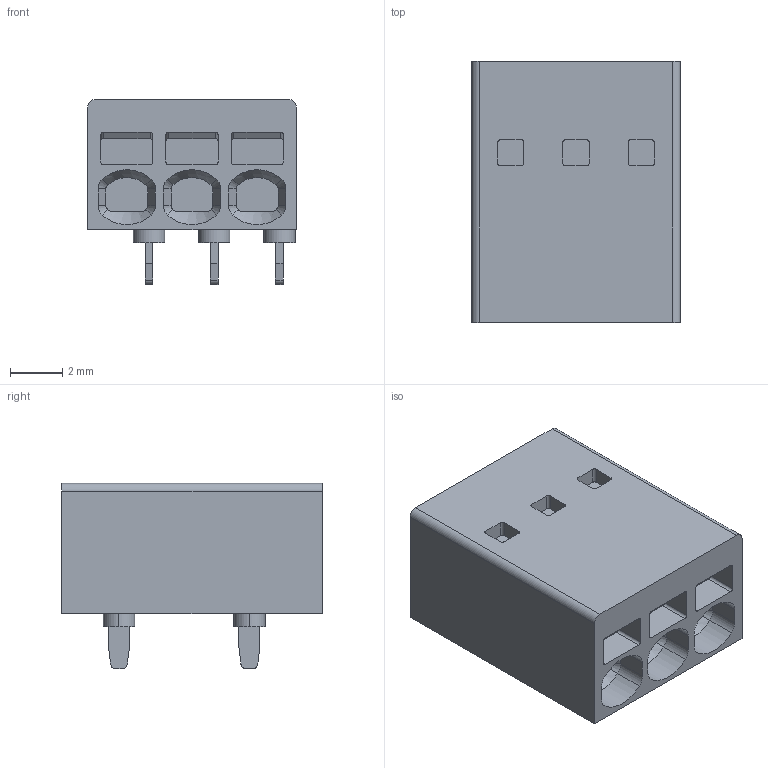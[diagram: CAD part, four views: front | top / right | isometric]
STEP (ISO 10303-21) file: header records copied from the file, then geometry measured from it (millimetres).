
FILE_DESCRIPTION(('Creo Elements/Direct Modeling STEP Export'),'2;1');
FILE_NAME('D:/temp/JobSpoolerServerData/JobServer Files/3e5b3a41-d3dc-472e-855a-517978477057/work/output/model.stp','2018-02-10T10:29:43',(''),(''),'Creo Elements/Direct Modeling STEP processor for AP214 (Solid Model)','Creo Elements/Direct Modeling 18.1I 14-Aug-2016 (C) Parametric Technology GmbH','');
FILE_SCHEMA(('AUTOMOTIVE_DESIGN { 1 0 10303 214 1 1 1 1 }'));
Length unit declared in the file: millimetre
Products named in the file (3): PTSM_0_5-3-2_5-H; Bohrloch.4; 1770898
Assembly tree (7 placements, depth 2):
  1770898
    Bohrloch.4  x6
    PTSM_0_5-3-2_5-H
Bounding box: 8 x 10 x 7.1 mm (x, y, z)
Volume: 373.9 mm3; surface area: 456.4 mm2
Topology: 7 solids, 7 shells, 230 faces, 552 edges, 351 vertices
Faces by surface type: plane 117, cylinder 95, cone 18
Entity records: 8041 total; most frequent: CARTESIAN_POINT 1153, DIRECTION 1100, ORIENTED_EDGE 1044, EDGE_CURVE 522, AXIS2_PLACEMENT_3D 374, VECTOR 352, LINE 352, VERTEX_POINT 331
